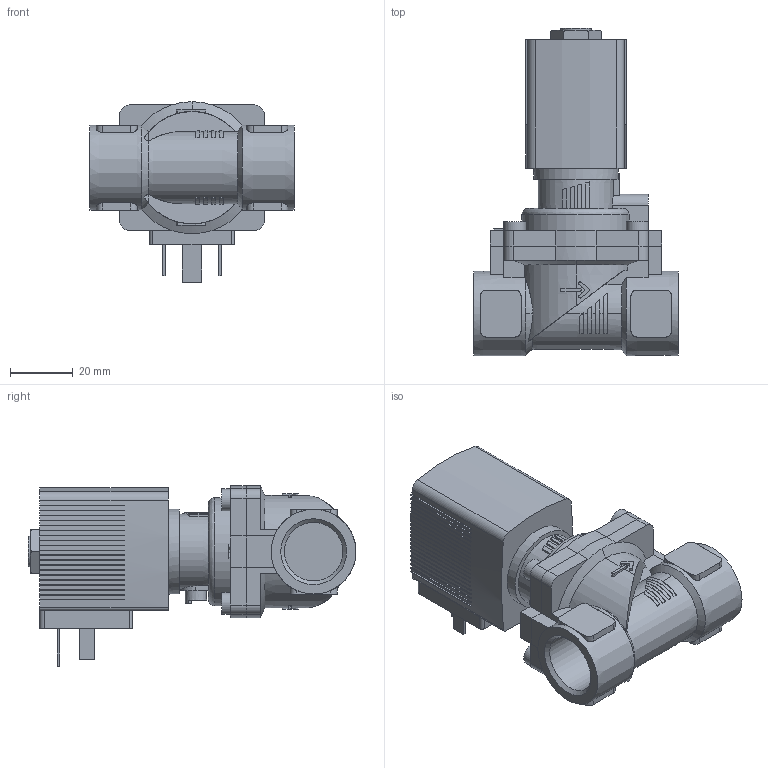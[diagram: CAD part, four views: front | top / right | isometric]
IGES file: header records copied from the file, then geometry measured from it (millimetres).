
Start section: Data from Parasolid IGES Translator 26.0.171, Copyright(c) 2006 Siemens PLM Software. All Rights Reserved.
Global section: file name: 6281-270674-2_2-Way_Solenoid_Valve__Servo-assisted__General_Purpose.igs; native system: By Siemens PLM Incorporated; preprocessor: XPlus GENERIC/IGES 26.0.171; author: Noname; organization: Noname; date: 20240514.145349; units: millimetre
Bounding box: 65 x 104.5 x 57.5 mm (x, y, z)
Surface area: 30293.8 mm2 (no closed solid volume)
Topology: 0 solids, 0 shells, 581 faces, 3240 edges, 3224 vertices
Faces by surface type: extrusion 449, revolution 132
